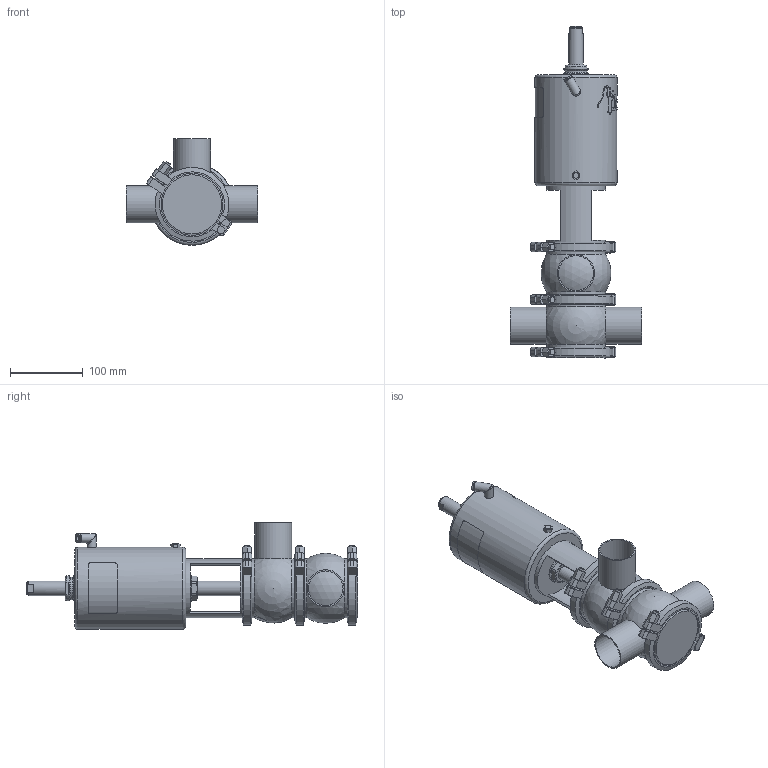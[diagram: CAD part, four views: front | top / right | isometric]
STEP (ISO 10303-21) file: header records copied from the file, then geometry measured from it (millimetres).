
FILE_DESCRIPTION (( 'STEP AP214' ), '1' );
FILE_NAME ('INNOVA M B W OD 2 T2 AS NC_10.241.16.0004.STEP', '2024-08-07T13:08:09', ( '' ), ( '' ), 'SwSTEP 2.0', 'SolidWorks 2023', '' );
FILE_SCHEMA (( 'AUTOMOTIVE_DESIGN' ));
Length unit declared in the file: millimetre
Products named in the file (7): 10.240.15.0014_T2 AS P180; 10.240.15.0001_DN 050; 10.240.15.0007_OD 2"; 10.240.15.0010_DN 050; 10.241.15.0001_DIN 050; 10.240.15.0006_OD 2"; INNOVA M B W OD 2 T2 AS NC_10.241.16.0004
Assembly tree (8 placements, depth 2):
  INNOVA M B W OD 2 T2 AS NC_10.241.16.0004
    10.240.15.0006_OD 2"
    10.240.15.0007_OD 2"
    10.240.15.0010_DN 050
    10.240.15.0014_T2 AS P180
    10.240.15.0001_DN 050  x3
    10.241.15.0001_DIN 050
Bounding box: 180 x 455.27 x 146.25 mm (x, y, z)
Volume: 2750795.7 mm3; surface area: 309016.5 mm2
Topology: 9 solids, 9 shells, 463 faces, 1219 edges, 795 vertices
Faces by surface type: plane 226, cylinder 112, bspline 80, cone 36, sphere 5, torus 4
Full cylindrical faces by diameter (mm): 6.15 x1, 8 x7, 8.5 x1, 10.5 x1, 12.5 x3, 16 x1, 20 x2, 31 x1, 34.5 x2, 36.5 x1, 47.5 x3, 50.8 x3, 81 x6, 93 x6, 112.5 x1
Entity records: 20726 total; most frequent: CARTESIAN_POINT 11311, ORIENTED_EDGE 1624, DIRECTION 1271, EDGE_CURVE 812, VERTEX_POINT 563, AXIS2_PLACEMENT_3D 491, EDGE_LOOP 431, FACE_OUTER_BOUND 386
